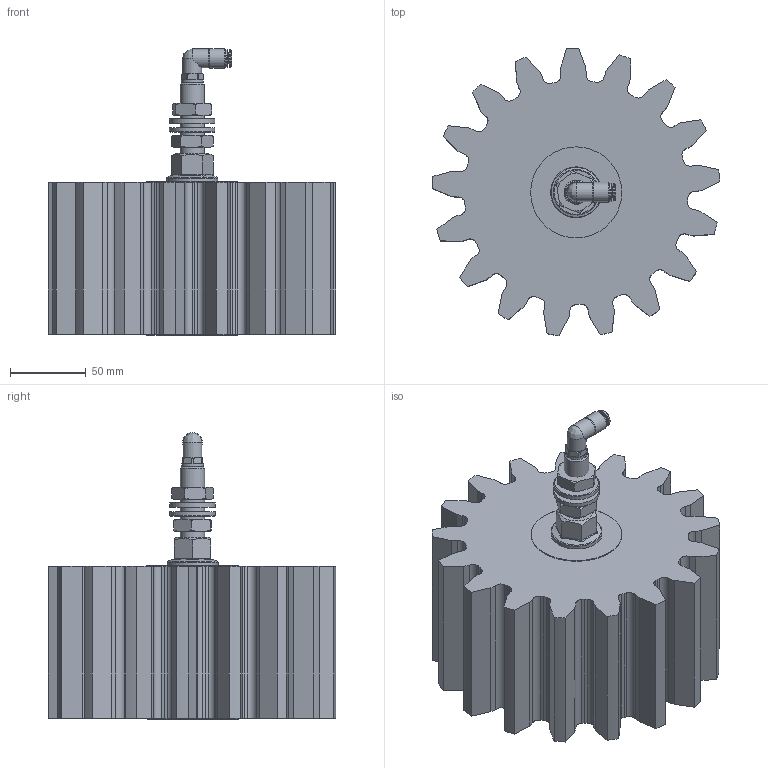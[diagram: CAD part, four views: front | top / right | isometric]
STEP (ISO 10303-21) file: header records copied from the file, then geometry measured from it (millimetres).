
FILE_DESCRIPTION (( 'STEP AP214' ), '1' );
FILE_NAME ('012_13_10_100_17AZ.STEP', '2026-04-08T09:25:58', ( '' ), ( '' ), 'SwSTEP 2.0', 'SolidWorks 2022', '' );
FILE_SCHEMA (( 'AUTOMOTIVE_DESIGN' ));
Length unit declared in the file: millimetre
Products named in the file (12): Mutter_M16; Scheibe_M16; DR6-C_HDX_25.07.16_1; OR 7.2X1.9_1; Senkkopfschraube_M6; RIVOLUZIONE_0_2; RH202242; Achse_M16_Schmierzahnrad; 012_06_02_Scheibe-groß.SLDASM; H202242_HDS022_6_M10X1_08.05.17(1); Schmierzahnrad_10_100_17G; 012_13_10_100_17AZ
Assembly tree (13 placements, depth 3):
  012_13_10_100_17AZ
    Achse_M16_Schmierzahnrad
    012_06_02_Scheibe-groß.SLDASM
    Senkkopfschraube_M6
    Mutter_M16  x2
    Scheibe_M16  x2
    H202242_HDS022_6_M10X1_08.05.17(1)
      OR 7.2X1.9_1
      RH202242
      DR6-C_HDX_25.07.16_1
      RIVOLUZIONE_0_2
    Schmierzahnrad_10_100_17G
Bounding box: 189.7 x 189.32 x 189 mm (x, y, z)
Volume: 2262588.5 mm3; surface area: 175627.4 mm2
Topology: 12 solids, 12 shells, 678 faces, 1812 edges, 1197 vertices
Faces by surface type: plane 431, bspline 91, cylinder 90, cone 63, torus 3
Full cylindrical faces by diameter (mm): 4 x2, 5 x1, 6 x1, 6.2 x1, 6.3 x1, 6.6 x1, 7.2 x1, 8.5 x1, 8.92 x2, 9 x2, 9.9 x1, 10 x2, 10.1 x2, 10.3 x1, 11.5 x1, 11.7 x1, 12.5 x2, 13 x1, 14 x2, 14.5 x1, 16 x1, 17 x2, 30 x2, 33.6 x1, 60 x2
Entity records: 26290 total; most frequent: CARTESIAN_POINT 9823, ORIENTED_EDGE 3260, DIRECTION 2769, EDGE_CURVE 1630, LINE 1157, VECTOR 1157, VERTEX_POINT 1114, AXIS2_PLACEMENT_3D 806
